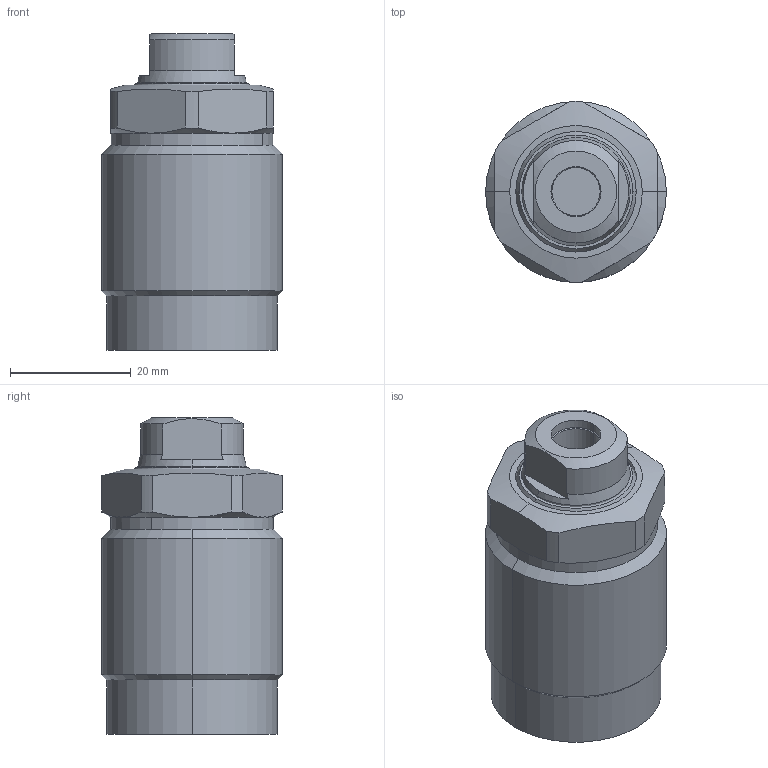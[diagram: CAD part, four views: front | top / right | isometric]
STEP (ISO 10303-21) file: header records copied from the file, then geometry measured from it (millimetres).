
FILE_DESCRIPTION((' '),'2;1');
FILE_NAME( 'TGP30-AM.x_t.stp', '2025-02-10T16:03:53', (' '), ('--- Datakit www.datakit.com---'), ' Datakit CrossCadWare V2024.1 Dec 21 2023', 'Mastercam 2025', ' ');
FILE_SCHEMA(('AUTOMOTIVE_DESIGN { 1 0 10303 214 1 1 1 1 }'));
Length unit declared in the file: millimetre
Products named in the file (1): TGP30-AM
Bounding box: 30 x 30 x 52.5 mm (x, y, z)
Volume: 33005.4 mm3; surface area: 7629.9 mm2
Topology: 2 solids, 2 shells, 82 faces, 197 edges, 126 vertices
Faces by surface type: cylinder 34, cone 22, plane 22, torus 4
Entity records: 2546 total; most frequent: CARTESIAN_POINT 580, DIRECTION 434, ORIENTED_EDGE 390, EDGE_CURVE 195, AXIS2_PLACEMENT_3D 184, VERTEX_POINT 126, CIRCLE 101, EDGE_LOOP 91
